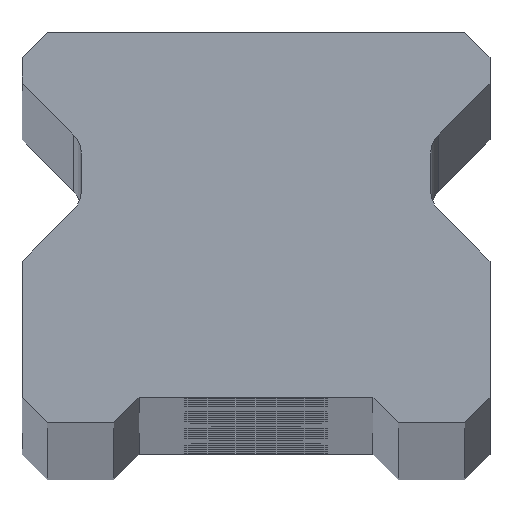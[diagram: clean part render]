
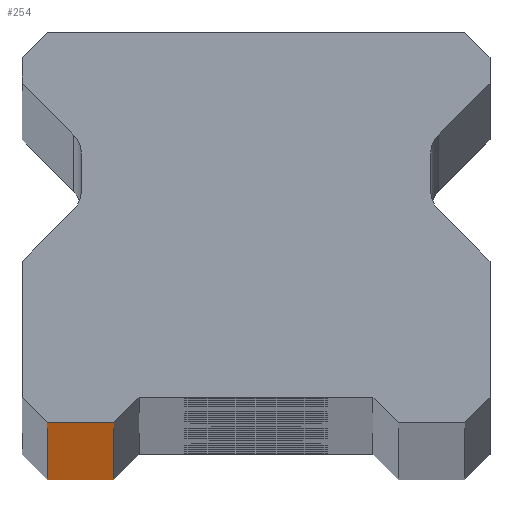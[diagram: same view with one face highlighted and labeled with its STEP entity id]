
A CAD part, top view. The second image highlights one B-rep face of the part: STEP entity #254.
In plain terms, the highlighted planar face has unit normal (0, -1, 0).
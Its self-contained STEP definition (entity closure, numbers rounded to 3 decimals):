
#28 = ORIENTED_EDGE ( 'NONE', *, *, #1602, .T. ) ;
#120 = LINE ( 'NONE', #1490, #4247 ) ;
#218 = VECTOR ( 'NONE', #4264, 1000. ) ;
#254 = ADVANCED_FACE ( 'NONE', ( #1420 ), #4896, .F. ) ;
#280 = DIRECTION ( 'NONE',  ( 0., 0., -1. ) ) ;
#523 = CARTESIAN_POINT ( 'NONE',  ( -7., 0., 800. ) ) ;
#619 = ORIENTED_EDGE ( 'NONE', *, *, #2903, .F. ) ;
#699 = EDGE_LOOP ( 'NONE', ( #28, #2173, #619, #4267 ) ) ;
#954 = EDGE_CURVE ( 'NONE', #2010, #3672, #120, .T. ) ;
#967 = CARTESIAN_POINT ( 'NONE',  ( -10.25, 0., -800. ) ) ;
#996 = CARTESIAN_POINT ( 'NONE',  ( -7., 0., -800. ) ) ;
#1024 = LINE ( 'NONE', #1503, #218 ) ;
#1365 = DIRECTION ( 'NONE',  ( 1., 0., 0. ) ) ;
#1420 = FACE_OUTER_BOUND ( 'NONE', #699, .T. ) ;
#1469 = CARTESIAN_POINT ( 'NONE',  ( -10.25, 0., 800. ) ) ;
#1490 = CARTESIAN_POINT ( 'NONE',  ( -7., 0., -800. ) ) ;
#1503 = CARTESIAN_POINT ( 'NONE',  ( 11.5, 0., 800. ) ) ;
#1602 = EDGE_CURVE ( 'NONE', #3950, #2010, #4526, .T. ) ;
#2010 = VERTEX_POINT ( 'NONE', #996 ) ;
#2109 = CARTESIAN_POINT ( 'NONE',  ( 11.5, 0., 800. ) ) ;
#2173 = ORIENTED_EDGE ( 'NONE', *, *, #954, .T. ) ;
#2621 = LINE ( 'NONE', #3454, #4155 ) ;
#2903 = EDGE_CURVE ( 'NONE', #3099, #3672, #1024, .T. ) ;
#2914 = DIRECTION ( 'NONE',  ( -1., 0., 0. ) ) ;
#3099 = VERTEX_POINT ( 'NONE', #1469 ) ;
#3379 = VECTOR ( 'NONE', #1365, 1000. ) ;
#3454 = CARTESIAN_POINT ( 'NONE',  ( -10.25, 0., 800. ) ) ;
#3475 = EDGE_CURVE ( 'NONE', #3099, #3950, #2621, .T. ) ;
#3480 = DIRECTION ( 'NONE',  ( 0., 0., 1. ) ) ;
#3668 = AXIS2_PLACEMENT_3D ( 'NONE', #2109, #4842, #2914 ) ;
#3672 = VERTEX_POINT ( 'NONE', #523 ) ;
#3710 = CARTESIAN_POINT ( 'NONE',  ( 11.5, 0., -800. ) ) ;
#3950 = VERTEX_POINT ( 'NONE', #967 ) ;
#4155 = VECTOR ( 'NONE', #280, 1000. ) ;
#4247 = VECTOR ( 'NONE', #3480, 1000. ) ;
#4264 = DIRECTION ( 'NONE',  ( 1., 0., 0. ) ) ;
#4267 = ORIENTED_EDGE ( 'NONE', *, *, #3475, .T. ) ;
#4526 = LINE ( 'NONE', #3710, #3379 ) ;
#4842 = DIRECTION ( 'NONE',  ( 0., 1., 0. ) ) ;
#4896 = PLANE ( 'NONE',  #3668 ) ;
